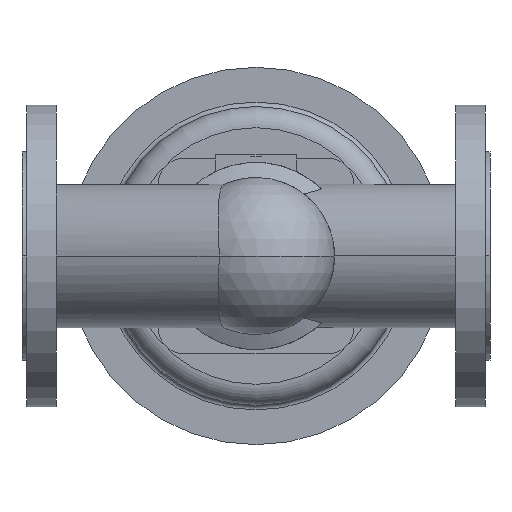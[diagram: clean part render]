
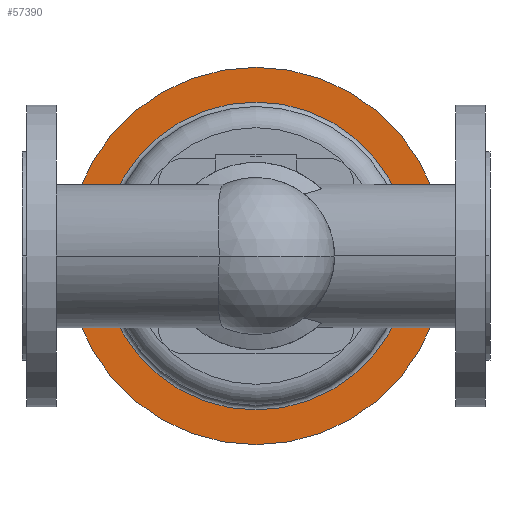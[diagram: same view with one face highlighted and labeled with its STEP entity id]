
A CAD part, front view. The second image highlights one B-rep face of the part: STEP entity #57390.
In plain terms, the highlighted planar face has unit normal (0, -1, 0).
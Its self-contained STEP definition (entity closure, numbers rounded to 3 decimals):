
#56850=CARTESIAN_POINT('',(53.,656.7,0.));
#56860=VERTEX_POINT('',#56850);
#56890=CARTESIAN_POINT('',(155.,656.7,0.));
#56900=DIRECTION('',(0.,1.,0.));
#56910=DIRECTION('',(1.,0.,0.));
#56920=AXIS2_PLACEMENT_3D('',#56890,#56900,#56910);
#56930=CIRCLE('',#56920,102.);
#56940=CARTESIAN_POINT('',(257.,656.7,0.));
#56950=VERTEX_POINT('',#56940);
#56960=EDGE_CURVE('',#56860,#56950,#56930,.T.);
#57100=CARTESIAN_POINT('',(268.5,656.7,0.));
#57110=DIRECTION('',(0.,-1.,0.));
#57120=DIRECTION('',(-1.,0.,0.));
#57130=AXIS2_PLACEMENT_3D('',#57100,#57110,#57120);
#57140=PLANE('',#57130);
#57150=CARTESIAN_POINT('',(155.,656.7,0.));
#57160=DIRECTION('',(0.,1.,0.));
#57170=DIRECTION('',(1.,0.,0.));
#57180=AXIS2_PLACEMENT_3D('',#57150,#57160,#57170);
#57190=CIRCLE('',#57180,125.);
#57200=CARTESIAN_POINT('',(30.,656.7,0.));
#57210=VERTEX_POINT('',#57200);
#57220=CARTESIAN_POINT('',(280.,656.7,0.));
#57230=VERTEX_POINT('',#57220);
#57240=EDGE_CURVE('',#57210,#57230,#57190,.T.);
#57250=ORIENTED_EDGE('',*,*,#57240,.F.);
#57260=EDGE_CURVE('',#57230,#57210,#57190,.T.);
#57270=ORIENTED_EDGE('',*,*,#57260,.F.);
#57280=EDGE_LOOP('',(#57270,#57250));
#57290=FACE_OUTER_BOUND('',#57280,.T.);
#57300=ORIENTED_EDGE('',*,*,#56960,.T.);
#57310=CARTESIAN_POINT('',(155.,656.7,-102.));
#57320=VERTEX_POINT('',#57310);
#57330=EDGE_CURVE('',#57320,#56860,#56930,.T.);
#57340=ORIENTED_EDGE('',*,*,#57330,.T.);
#57350=EDGE_CURVE('',#56950,#57320,#56930,.T.);
#57360=ORIENTED_EDGE('',*,*,#57350,.T.);
#57370=EDGE_LOOP('',(#57360,#57340,#57300));
#57380=FACE_BOUND('',#57370,.T.);
#57390=ADVANCED_FACE('',(#57290,#57380),#57140,.T.);
